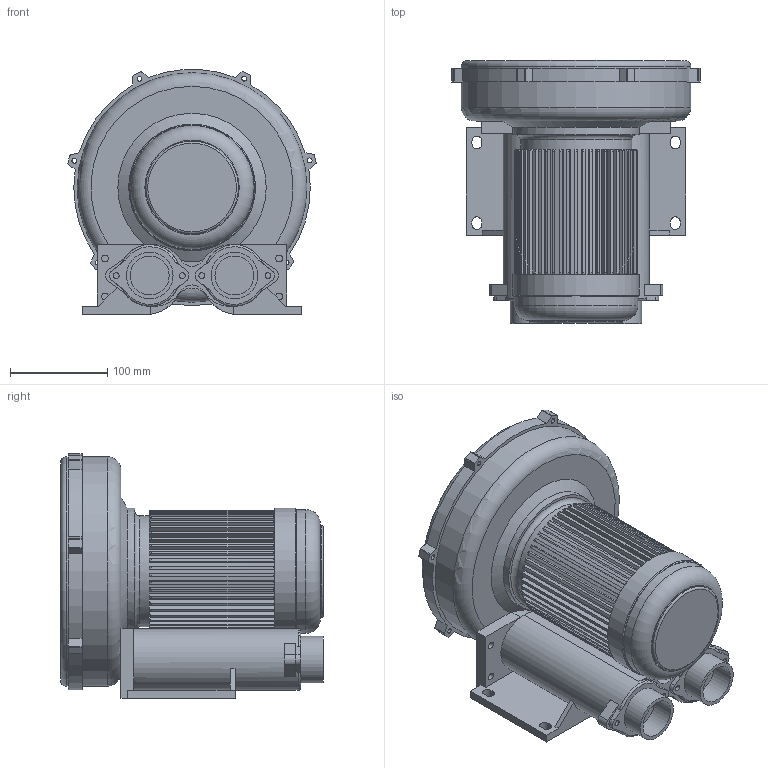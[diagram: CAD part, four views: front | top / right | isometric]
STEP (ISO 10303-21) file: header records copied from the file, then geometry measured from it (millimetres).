
FILE_DESCRIPTION(/* description */ ('Unknown'),/* implementation_level */ '2;1');
FILE_NAME(/* name */ '20201125 RB-0.5',/* time_stamp */ '2020-11-26T22:42:43+08:00',/* author */ ('å¤§èºè¨­è¨æéå¬å¸'),/* organization */ ('Unknown'),/* preprocessor_version */ 'ST-DEVELOPER v16.7',/* originating_system */ 'DEX',/* authorisation */ $);
FILE_SCHEMA (('AUTOMOTIVE_DESIGN {1 0 10303 214 3 1 1}'));
Length unit declared in the file: millimetre
Products named in the file (1): 20201125 RB-0.5
Bounding box: 255.06 x 270 x 251.68 mm (x, y, z)
Volume: 6638704.1 mm3; surface area: 434210.3 mm2
Topology: 1 solids, 1 shells, 512 faces, 1465 edges, 972 vertices
Faces by surface type: plane 305, cylinder 193, torus 9, cone 5
Full cylindrical faces by diameter (mm): 6 x4, 7 x4, 39.997 x2, 48 x2, 95.154 x1, 114.154 x1, 127 x1, 130.154 x2, 236 x2
Entity records: 16926 total; most frequent: CARTESIAN_POINT 3437, ORIENTED_EDGE 2856, DIRECTION 2820, EDGE_CURVE 1428, AXIS2_PLACEMENT_3D 1041, VERTEX_POINT 964, LINE 738, VECTOR 738
